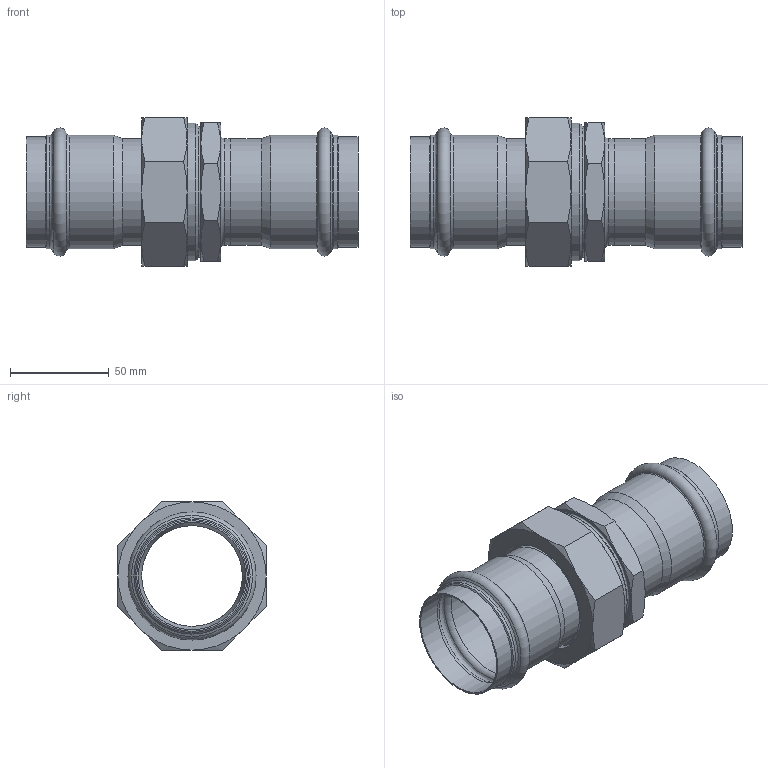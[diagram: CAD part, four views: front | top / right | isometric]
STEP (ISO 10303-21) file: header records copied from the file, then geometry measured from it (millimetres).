
FILE_DESCRIPTION((''),'2;1');
FILE_NAME('G:\Nirosan-Schmiedefeld\Technics\CAD\Bauteile VA\054\6933054(2).stp','2011-05-17T10:00:10',('herberg'),(''),'Autodesk Inventor 2009','Autodesk Inventor 2009','');
FILE_SCHEMA(('AUTOMOTIVE_DESIGN { 1 0 10303 214 1 1 1 1 }'));
Length unit declared in the file: millimetre
Products named in the file (9): 6933054(2); 69359m54238(2); HM_6924354(1); R54238(1); FD_6555_EPDM(0); AM54238(2); 69359AG54238(0); 69243G54HM(1); 359AG54238(2)
Assembly tree (8 placements, depth 3):
  6933054(2)
    69359m54238(2)
      HM_6924354(1)
      R54238(1)
      FD_6555_EPDM(0)
      AM54238(2)
    69359AG54238(0)
      69243G54HM(1)
      359AG54238(2)
Bounding box: 168 x 75 x 75 mm (x, y, z)
Volume: 116223.1 mm3; surface area: 85874.7 mm2
Topology: 6 solids, 6 shells, 119 faces, 237 edges, 134 vertices
Faces by surface type: cone 47, plane 31, cylinder 23, bspline 11, torus 7
Full cylindrical faces by diameter (mm): 51 x4, 54 x4, 54.35 x4, 55 x2, 55.95 x2, 57.35 x4, 65 x2, 69.398 x1
Entity records: 3378 total; most frequent: CARTESIAN_POINT 1039, DIRECTION 468, ORIENTED_EDGE 362, AXIS2_PLACEMENT_3D 226, EDGE_LOOP 190, EDGE_CURVE 181, VERTEX_POINT 133, FACE_OUTER_BOUND 119
